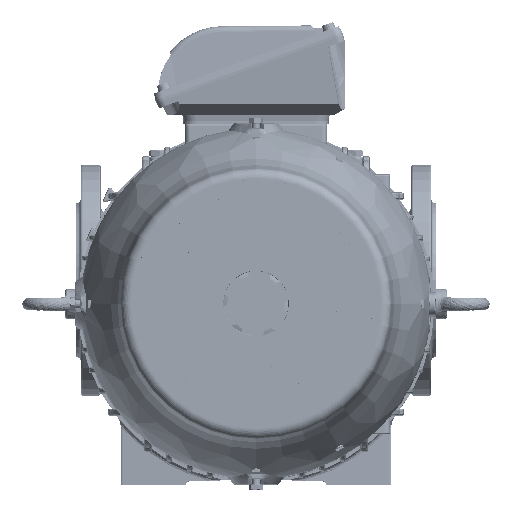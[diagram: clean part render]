
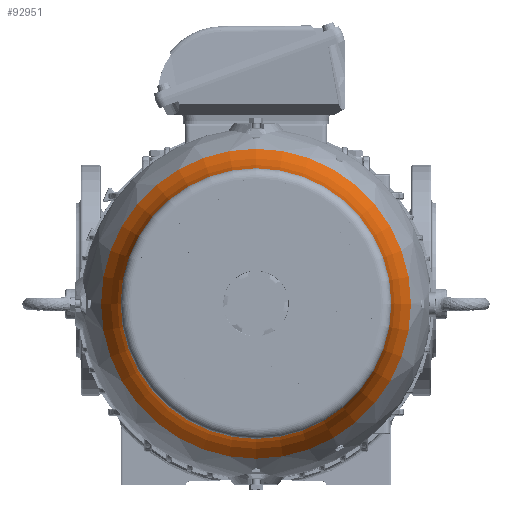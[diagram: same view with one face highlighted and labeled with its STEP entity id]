
A CAD part, top view. The second image highlights one B-rep face of the part: STEP entity #92951.
In plain terms, the highlighted toroidal (fillet/blend) face has major radius 264.661 mm and minor radius 130 mm.
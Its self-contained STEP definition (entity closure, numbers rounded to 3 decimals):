
#136=TOROIDAL_SURFACE('',#100771,264.661,130.);
#12910=FACE_OUTER_BOUND('',#18592,.T.);
#18592=EDGE_LOOP('',(#78156,#78157,#78158,#78159,#78160,#78161));
#27662=CIRCLE('',#100769,154.526);
#27663=CIRCLE('',#100770,154.526);
#27664=CIRCLE('',#100772,130.);
#27665=CIRCLE('',#100773,134.976);
#27666=CIRCLE('',#100774,134.976);
#44012=VERTEX_POINT('',#189260);
#44013=VERTEX_POINT('',#189264);
#44014=VERTEX_POINT('',#189376);
#44015=VERTEX_POINT('',#189378);
#55777=EDGE_CURVE('',#44012,#44013,#27662,.T.);
#55778=EDGE_CURVE('',#44013,#44012,#27663,.T.);
#55783=EDGE_CURVE('',#44012,#44014,#27664,.T.);
#55784=EDGE_CURVE('',#44014,#44015,#27665,.T.);
#55785=EDGE_CURVE('',#44015,#44014,#27666,.T.);
#78156=ORIENTED_EDGE('',*,*,#55778,.F.);
#78157=ORIENTED_EDGE('',*,*,#55777,.F.);
#78158=ORIENTED_EDGE('',*,*,#55783,.T.);
#78159=ORIENTED_EDGE('',*,*,#55784,.T.);
#78160=ORIENTED_EDGE('',*,*,#55785,.T.);
#78161=ORIENTED_EDGE('',*,*,#55783,.F.);
#92951=ADVANCED_FACE('',(#12910),#136,.F.);
#100769=AXIS2_PLACEMENT_3D('',#189265,#118517,#118518);
#100770=AXIS2_PLACEMENT_3D('',#189266,#118519,#118520);
#100771=AXIS2_PLACEMENT_3D('',#189375,#118521,#118522);
#100772=AXIS2_PLACEMENT_3D('',#189377,#118523,#118524);
#100773=AXIS2_PLACEMENT_3D('',#189379,#118525,#118526);
#100774=AXIS2_PLACEMENT_3D('',#189380,#118527,#118528);
#118517=DIRECTION('center_axis',(0.,0.,
-1.));
#118518=DIRECTION('ref_axis',(-1.,0.,0.));
#118519=DIRECTION('center_axis',(0.,0.,
-1.));
#118520=DIRECTION('ref_axis',(-1.,0.,0.));
#118521=DIRECTION('center_axis',(0.,0.,
-1.));
#118522=DIRECTION('ref_axis',(-1.,0.,0.));
#118523=DIRECTION('center_axis',(0.,1.,0.));
#118524=DIRECTION('ref_axis',(1.,0.,0.));
#118525=DIRECTION('center_axis',(0.,0.,
-1.));
#118526=DIRECTION('ref_axis',(-1.,0.,0.));
#118527=DIRECTION('center_axis',(0.,0.,
-1.));
#118528=DIRECTION('ref_axis',(-1.,0.,0.));
#189260=CARTESIAN_POINT('',(154.526,0.,642.164));
#189264=CARTESIAN_POINT('',(-154.526,0.,642.164));
#189265=CARTESIAN_POINT('Origin',(0.,0.,
642.164));
#189266=CARTESIAN_POINT('Origin',(0.,0.,
642.164));
#189375=CARTESIAN_POINT('Origin',(0.,0.,
711.231));
#189376=CARTESIAN_POINT('',(134.976,0.,702.195));
#189377=CARTESIAN_POINT('Origin',(264.661,0.,
711.231));
#189378=CARTESIAN_POINT('',(-134.976,0.,702.195));
#189379=CARTESIAN_POINT('Origin',(0.,0.,
702.195));
#189380=CARTESIAN_POINT('Origin',(0.,0.,
702.195));
